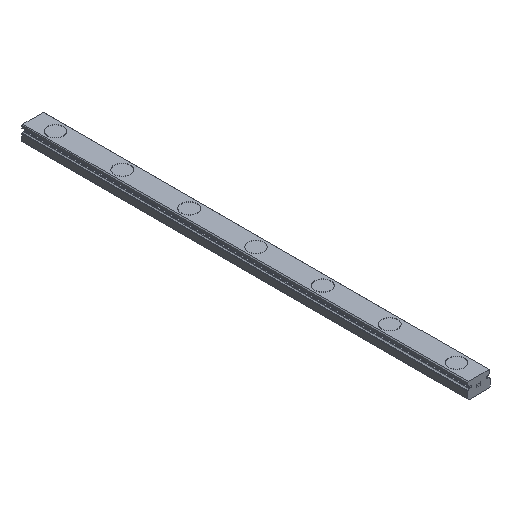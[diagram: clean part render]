
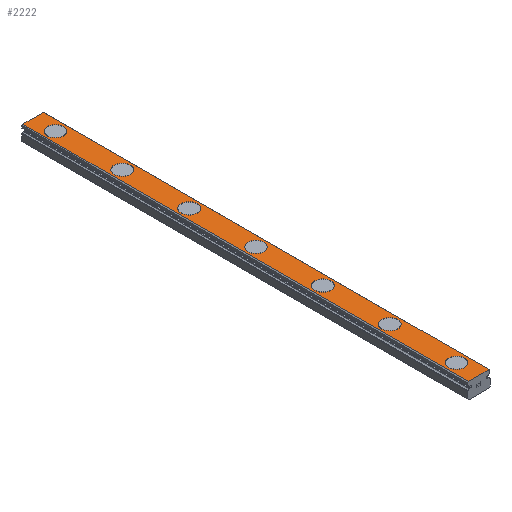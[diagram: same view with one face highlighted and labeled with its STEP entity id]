
A CAD part, isometric view. The second image highlights one B-rep face of the part: STEP entity #2222.
In plain terms, the highlighted planar face has unit normal (0, 0, 1).
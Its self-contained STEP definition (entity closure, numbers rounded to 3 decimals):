
#864=EDGE_CURVE('',#932,#1546,#2488,.T.);
#896=EDGE_CURVE('',#2422,#2366,#2522,.T.);
#898=EDGE_CURVE('',#932,#1348,#2524,.T.);
#902=VERTEX_POINT('',#2528);
#906=VERTEX_POINT('',#2532);
#932=VERTEX_POINT('',#2559);
#998=VERTEX_POINT('',#2632);
#1036=VERTEX_POINT('',#2675);
#1230=VERTEX_POINT('',#2891);
#1252=EDGE_CURVE('',#2304,#2176,#2915,.T.);
#1268=EDGE_CURVE('',#2360,#2332,#2932,.T.);
#1300=EDGE_CURVE('',#1562,#1036,#2965,.T.);
#1348=VERTEX_POINT('',#3020);
#1366=VERTEX_POINT('',#3039);
#1416=EDGE_CURVE('',#998,#1366,#3096,.T.);
#1486=EDGE_CURVE('',#1366,#998,#3172,.T.);
#1492=EDGE_CURVE('',#902,#906,#3178,.T.);
#1516=EDGE_CURVE('',#1732,#2266,#3205,.T.);
#1546=VERTEX_POINT('',#3236);
#1550=EDGE_CURVE('',#1546,#1230,#3240,.T.);
#1554=EDGE_CURVE('',#2176,#2304,#3244,.T.);
#1562=VERTEX_POINT('',#3254);
#1616=EDGE_CURVE('',#2266,#1732,#3314,.T.);
#1732=VERTEX_POINT('',#3446);
#1738=EDGE_CURVE('',#906,#902,#3452,.T.);
#1760=EDGE_CURVE('',#2332,#2360,#3479,.T.);
#1846=EDGE_CURVE('',#1036,#1562,#3574,.T.);
#1938=EDGE_CURVE('',#1348,#1230,#3674,.T.);
#2026=EDGE_CURVE('',#2366,#2422,#3771,.T.);
#2176=VERTEX_POINT('',#3933);
#2222=ADVANCED_FACE('',(#3991,#3992,#3993,#3994,#3995,#3996,#3997,#3998),#3999,.T.);
#2266=VERTEX_POINT('',#4048);
#2304=VERTEX_POINT('',#4094);
#2332=VERTEX_POINT('',#4124);
#2360=VERTEX_POINT('',#4154);
#2366=VERTEX_POINT('',#4161);
#2422=VERTEX_POINT('',#4222);
#2488=LINE('',#4295,#4296);
#2522=CIRCLE('',#4348,1.8);
#2524=LINE('',#4351,#4352);
#2528=CARTESIAN_POINT('',(1.8,80.0,3.6));
#2532=CARTESIAN_POINT('',(-1.8,80.0,3.6));
#2559=CARTESIAN_POINT('',(-2.3,100.0,3.6));
#2632=CARTESIAN_POINT('',(-1.8,95.0,3.6));
#2675=CARTESIAN_POINT('',(1.8,35.0,3.6));
#2891=CARTESIAN_POINT('',(2.3,0.0,3.6));
#2915=CIRCLE('',#4880,1.8);
#2932=CIRCLE('',#4903,1.8);
#2965=CIRCLE('',#4948,1.8);
#3020=CARTESIAN_POINT('',(2.3,100.0,3.6));
#3039=CARTESIAN_POINT('',(1.8,95.0,3.6));
#3096=CIRCLE('',#5122,1.8);
#3172=CIRCLE('',#5226,1.8);
#3178=CIRCLE('',#5235,1.8);
#3205=CIRCLE('',#5274,1.8);
#3236=CARTESIAN_POINT('',(-2.3,0.0,3.6));
#3240=LINE('',#5325,#5326);
#3244=CIRCLE('',#5333,1.8);
#3254=CARTESIAN_POINT('',(-1.8,35.0,3.6));
#3314=CIRCLE('',#5427,1.8);
#3446=CARTESIAN_POINT('',(-1.8,50.0,3.6));
#3452=CIRCLE('',#5612,1.8);
#3479=CIRCLE('',#5648,1.8);
#3574=CIRCLE('',#5775,1.8);
#3674=LINE('',#5911,#5912);
#3771=CIRCLE('',#6044,1.8);
#3933=CARTESIAN_POINT('',(-1.8,5.0,3.6));
#3991=FACE_BOUND('',#6350,.T.);
#3992=FACE_BOUND('',#6351,.T.);
#3993=FACE_BOUND('',#6352,.T.);
#3994=FACE_BOUND('',#6353,.T.);
#3995=FACE_BOUND('',#6354,.T.);
#3996=FACE_BOUND('',#6355,.T.);
#3997=FACE_BOUND('',#6356,.T.);
#3998=FACE_OUTER_BOUND('',#6357,.T.);
#3999=PLANE('',#6358);
#4048=CARTESIAN_POINT('',(1.8,50.0,3.6));
#4094=CARTESIAN_POINT('',(1.8,5.0,3.6));
#4124=CARTESIAN_POINT('',(1.8,65.0,3.6));
#4154=CARTESIAN_POINT('',(-1.8,65.0,3.6));
#4161=CARTESIAN_POINT('',(1.8,20.0,3.6));
#4222=CARTESIAN_POINT('',(-1.8,20.0,3.6));
#4295=CARTESIAN_POINT('',(-2.3,100.0,3.6));
#4296=VECTOR('',#6717,1.0);
#4348=AXIS2_PLACEMENT_3D('',#6750,#6751,#6752);
#4351=CARTESIAN_POINT('',(-2.3,100.0,3.6));
#4352=VECTOR('',#6753,1.0);
#4880=AXIS2_PLACEMENT_3D('',#7172,#7173,#7174);
#4903=AXIS2_PLACEMENT_3D('',#7188,#7189,#7190);
#4948=AXIS2_PLACEMENT_3D('',#7207,#7208,#7209);
#5122=AXIS2_PLACEMENT_3D('',#7352,#7353,#7354);
#5226=AXIS2_PLACEMENT_3D('',#7422,#7423,#7424);
#5235=AXIS2_PLACEMENT_3D('',#7426,#7427,#7428);
#5274=AXIS2_PLACEMENT_3D('',#7459,#7460,#7461);
#5325=CARTESIAN_POINT('',(-2.3,0.0,3.6));
#5326=VECTOR('',#7485,1.0);
#5333=AXIS2_PLACEMENT_3D('',#7487,#7488,#7489);
#5427=AXIS2_PLACEMENT_3D('',#7573,#7574,#7575);
#5612=AXIS2_PLACEMENT_3D('',#7741,#7742,#7743);
#5648=AXIS2_PLACEMENT_3D('',#7788,#7789,#7790);
#5775=AXIS2_PLACEMENT_3D('',#7891,#7892,#7893);
#5911=CARTESIAN_POINT('',(2.3,100.0,3.6));
#5912=VECTOR('',#7993,1.0);
#6044=AXIS2_PLACEMENT_3D('',#8101,#8102,#8103);
#6350=EDGE_LOOP('',(#8336,#8337));
#6351=EDGE_LOOP('',(#8338,#8339));
#6352=EDGE_LOOP('',(#8340,#8341));
#6353=EDGE_LOOP('',(#8342,#8343));
#6354=EDGE_LOOP('',(#8344,#8345));
#6355=EDGE_LOOP('',(#8346,#8347));
#6356=EDGE_LOOP('',(#8348,#8349));
#6357=EDGE_LOOP('',(#8350,#8351,#8352,#8353));
#6358=AXIS2_PLACEMENT_3D('',#8354,#8355,#8356);
#6717=DIRECTION('',(0.0,-1.0,0.0));
#6750=CARTESIAN_POINT('',(0.0,20.0,3.6));
#6751=DIRECTION('',(0.0,0.0,-1.0));
#6752=DIRECTION('',(1.0,0.0,0.0));
#6753=DIRECTION('',(1.0,0.0,0.0));
#7172=CARTESIAN_POINT('',(0.0,5.0,3.6));
#7173=DIRECTION('',(0.0,0.0,-1.0));
#7174=DIRECTION('',(1.0,0.0,0.0));
#7188=CARTESIAN_POINT('',(0.0,65.0,3.6));
#7189=DIRECTION('',(0.0,0.0,-1.0));
#7190=DIRECTION('',(1.0,0.0,0.0));
#7207=CARTESIAN_POINT('',(0.0,35.0,3.6));
#7208=DIRECTION('',(0.0,0.0,-1.0));
#7209=DIRECTION('',(1.0,0.0,0.0));
#7352=CARTESIAN_POINT('',(0.0,95.0,3.6));
#7353=DIRECTION('',(0.0,0.0,-1.0));
#7354=DIRECTION('',(1.0,0.0,0.0));
#7422=CARTESIAN_POINT('',(0.0,95.0,3.6));
#7423=DIRECTION('',(0.0,0.0,-1.0));
#7424=DIRECTION('',(1.0,0.0,0.0));
#7426=CARTESIAN_POINT('',(0.0,80.0,3.6));
#7427=DIRECTION('',(0.0,0.0,-1.0));
#7428=DIRECTION('',(1.0,0.0,0.0));
#7459=CARTESIAN_POINT('',(0.0,50.0,3.6));
#7460=DIRECTION('',(0.0,0.0,-1.0));
#7461=DIRECTION('',(1.0,0.0,0.0));
#7485=DIRECTION('',(1.0,0.0,0.0));
#7487=CARTESIAN_POINT('',(0.0,5.0,3.6));
#7488=DIRECTION('',(0.0,0.0,-1.0));
#7489=DIRECTION('',(1.0,0.0,0.0));
#7573=CARTESIAN_POINT('',(0.0,50.0,3.6));
#7574=DIRECTION('',(0.0,0.0,-1.0));
#7575=DIRECTION('',(1.0,0.0,0.0));
#7741=CARTESIAN_POINT('',(0.0,80.0,3.6));
#7742=DIRECTION('',(0.0,0.0,-1.0));
#7743=DIRECTION('',(1.0,0.0,0.0));
#7788=CARTESIAN_POINT('',(0.0,65.0,3.6));
#7789=DIRECTION('',(0.0,0.0,-1.0));
#7790=DIRECTION('',(1.0,0.0,0.0));
#7891=CARTESIAN_POINT('',(0.0,35.0,3.6));
#7892=DIRECTION('',(0.0,0.0,-1.0));
#7893=DIRECTION('',(1.0,0.0,0.0));
#7993=DIRECTION('',(0.0,-1.0,0.0));
#8101=CARTESIAN_POINT('',(0.0,20.0,3.6));
#8102=DIRECTION('',(0.0,0.0,-1.0));
#8103=DIRECTION('',(1.0,0.0,0.0));
#8336=ORIENTED_EDGE('',*,*,#1416,.T.);
#8337=ORIENTED_EDGE('',*,*,#1486,.T.);
#8338=ORIENTED_EDGE('',*,*,#1738,.T.);
#8339=ORIENTED_EDGE('',*,*,#1492,.T.);
#8340=ORIENTED_EDGE('',*,*,#1268,.T.);
#8341=ORIENTED_EDGE('',*,*,#1760,.T.);
#8342=ORIENTED_EDGE('',*,*,#1516,.T.);
#8343=ORIENTED_EDGE('',*,*,#1616,.T.);
#8344=ORIENTED_EDGE('',*,*,#1300,.T.);
#8345=ORIENTED_EDGE('',*,*,#1846,.T.);
#8346=ORIENTED_EDGE('',*,*,#896,.T.);
#8347=ORIENTED_EDGE('',*,*,#2026,.T.);
#8348=ORIENTED_EDGE('',*,*,#1554,.T.);
#8349=ORIENTED_EDGE('',*,*,#1252,.T.);
#8350=ORIENTED_EDGE('',*,*,#1550,.T.);
#8351=ORIENTED_EDGE('',*,*,#1938,.F.);
#8352=ORIENTED_EDGE('',*,*,#898,.F.);
#8353=ORIENTED_EDGE('',*,*,#864,.T.);
#8354=CARTESIAN_POINT('',(-2.3,100.0,3.6));
#8355=DIRECTION('',(0.0,0.0,1.0));
#8356=DIRECTION('',(-1.0,0.0,-0.0));
